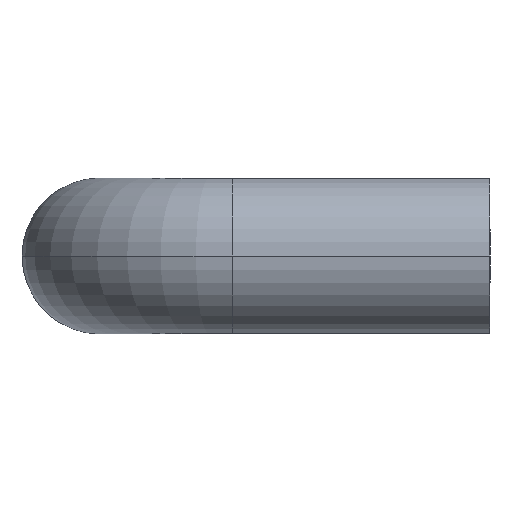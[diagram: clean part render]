
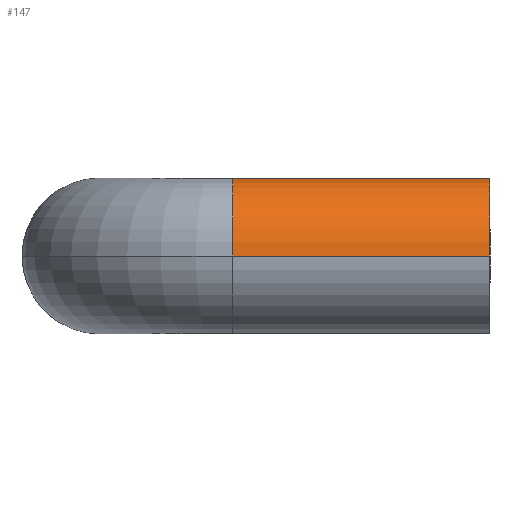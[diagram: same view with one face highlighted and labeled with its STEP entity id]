
A CAD part, left-side view. The second image highlights one B-rep face of the part: STEP entity #147.
In plain terms, the highlighted cylindrical face has radius 5 mm (diameter 10 mm), a partial arc.
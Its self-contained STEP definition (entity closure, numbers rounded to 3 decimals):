
#15 = CYLINDRICAL_SURFACE ( 'NONE', #355, 5. ) ;
#18 = FACE_OUTER_BOUND ( 'NONE', #176, .T. ) ;
#52 = VECTOR ( 'NONE', #319, 1000. ) ;
#54 = VECTOR ( 'NONE', #311, 1000. ) ;
#55 = LINE ( 'NONE', #318, #52 ) ;
#56 = LINE ( 'NONE', #310, #54 ) ;
#57 = CIRCLE ( 'NONE', #110, 5. ) ;
#61 = CIRCLE ( 'NONE', #108, 5. ) ;
#76 = EDGE_CURVE ( 'NONE', #267, #255, #61, .T. ) ;
#78 = EDGE_CURVE ( 'NONE', #255, #252, #56, .T. ) ;
#79 = EDGE_CURVE ( 'NONE', #267, #262, #55, .T. ) ;
#80 = EDGE_CURVE ( 'NONE', #262, #252, #57, .T. ) ;
#108 = AXIS2_PLACEMENT_3D ( 'NONE', #115, #312, #313 ) ;
#110 = AXIS2_PLACEMENT_3D ( 'NONE', #321, #322, #323 ) ;
#115 = CARTESIAN_POINT ( 'NONE',  ( -50., -9., 0. ) ) ;
#123 = ORIENTED_EDGE ( 'NONE', *, *, #76, .F. ) ;
#147 = ADVANCED_FACE ( 'NONE', ( #18 ), #15, .T. ) ;
#176 = EDGE_LOOP ( 'NONE', ( #123, #195, #196, #197 ) ) ;
#195 = ORIENTED_EDGE ( 'NONE', *, *, #79, .T. ) ;
#196 = ORIENTED_EDGE ( 'NONE', *, *, #80, .T. ) ;
#197 = ORIENTED_EDGE ( 'NONE', *, *, #78, .F. ) ;
#252 = VERTEX_POINT ( 'NONE', #484 ) ;
#255 = VERTEX_POINT ( 'NONE', #474 ) ;
#262 = VERTEX_POINT ( 'NONE', #491 ) ;
#267 = VERTEX_POINT ( 'NONE', #496 ) ;
#310 = CARTESIAN_POINT ( 'NONE',  ( -45., -9., 0. ) ) ;
#311 = DIRECTION ( 'NONE',  ( 0., -1., 0. ) ) ;
#312 = DIRECTION ( 'NONE',  ( 0., 1., 0. ) ) ;
#313 = DIRECTION ( 'NONE',  ( -1., 0., 0. ) ) ;
#318 = CARTESIAN_POINT ( 'NONE',  ( -55., -9., 0. ) ) ;
#319 = DIRECTION ( 'NONE',  ( 0., -1., 0. ) ) ;
#321 = CARTESIAN_POINT ( 'NONE',  ( -50., -25.5, 0. ) ) ;
#322 = DIRECTION ( 'NONE',  ( 0., 1., 0. ) ) ;
#323 = DIRECTION ( 'NONE',  ( -1., 0., 0. ) ) ;
#355 = AXIS2_PLACEMENT_3D ( 'NONE', #433, #434, #432 ) ;
#432 = DIRECTION ( 'NONE',  ( 1., 0., 0. ) ) ;
#433 = CARTESIAN_POINT ( 'NONE',  ( -50., -9., 0. ) ) ;
#434 = DIRECTION ( 'NONE',  ( 0., -1., 0. ) ) ;
#474 = CARTESIAN_POINT ( 'NONE',  ( -45., -9., 0. ) ) ;
#484 = CARTESIAN_POINT ( 'NONE',  ( -45., -25.5, 0. ) ) ;
#491 = CARTESIAN_POINT ( 'NONE',  ( -55., -25.5, 0. ) ) ;
#496 = CARTESIAN_POINT ( 'NONE',  ( -55., -9., 0. ) ) ;
